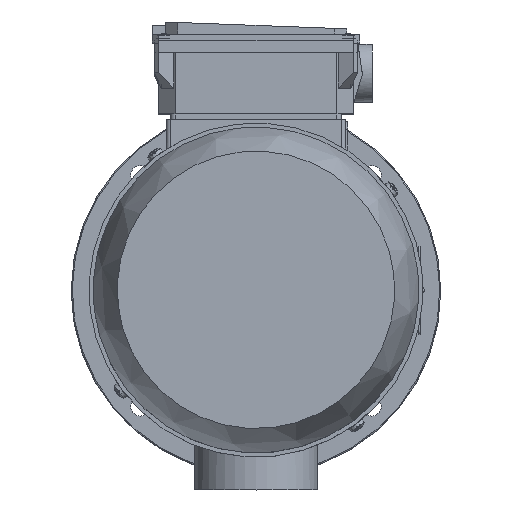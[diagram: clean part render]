
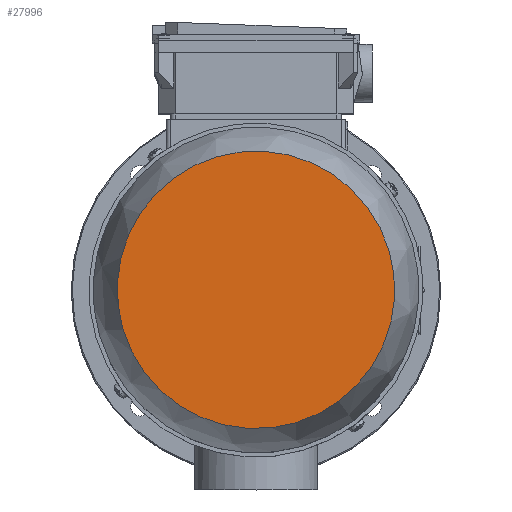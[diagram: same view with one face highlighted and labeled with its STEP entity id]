
A CAD part, top view. The second image highlights one B-rep face of the part: STEP entity #27996.
In plain terms, the highlighted planar face has unit normal (0, 0, 1).
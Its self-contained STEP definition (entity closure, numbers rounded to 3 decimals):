
#881=PLANE('',#29957);
#2089=FACE_OUTER_BOUND('',#3653,.T.);
#3653=EDGE_LOOP('',(#20444,#20445));
#5965=CIRCLE('',#29935,6.767);
#5966=CIRCLE('',#29936,6.767);
#11566=VERTEX_POINT('',#45821);
#11567=VERTEX_POINT('',#45822);
#14828=EDGE_CURVE('',#11566,#11567,#5965,.T.);
#14829=EDGE_CURVE('',#11567,#11566,#5966,.T.);
#20444=ORIENTED_EDGE('',*,*,#14828,.T.);
#20445=ORIENTED_EDGE('',*,*,#14829,.T.);
#27996=ADVANCED_FACE('',(#2089),#881,.T.);
#29935=AXIS2_PLACEMENT_3D('',#45823,#34299,#34300);
#29936=AXIS2_PLACEMENT_3D('',#45824,#34301,#34302);
#29957=AXIS2_PLACEMENT_3D('',#45898,#34348,#34349);
#34299=DIRECTION('center_axis',(0.,0.,
1.));
#34300=DIRECTION('ref_axis',(0.596,-0.803,0.));
#34301=DIRECTION('center_axis',(0.,0.,
1.));
#34302=DIRECTION('ref_axis',(0.596,-0.803,0.));
#34348=DIRECTION('center_axis',(0.,0.,
1.));
#34349=DIRECTION('ref_axis',(-0.803,-0.596,0.));
#45821=CARTESIAN_POINT('',(-4.033,5.434,23.262));
#45822=CARTESIAN_POINT('',(5.434,4.033,23.262));
#45823=CARTESIAN_POINT('Origin',(0.,0.,
23.262));
#45824=CARTESIAN_POINT('Origin',(0.,0.,
23.262));
#45898=CARTESIAN_POINT('Origin',(0.,0.,
23.262));
